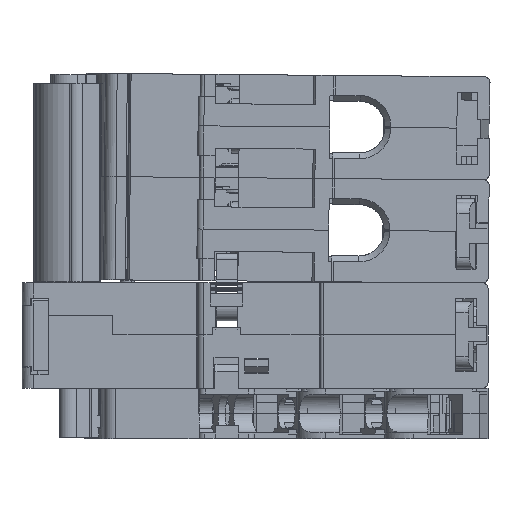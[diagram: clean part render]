
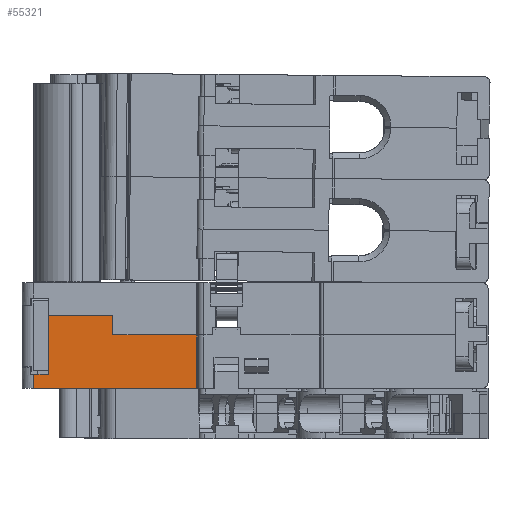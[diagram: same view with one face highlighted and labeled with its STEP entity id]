
A CAD part, left-side view. The second image highlights one B-rep face of the part: STEP entity #55321.
In plain terms, the highlighted planar face has unit normal (-1, 0, 0).
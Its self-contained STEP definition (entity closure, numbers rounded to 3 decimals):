
#1710 = FACE_OUTER_BOUND ( 'NONE', #66108, .T. ) ;
#1711 = PLANE ( 'NONE',  #69541 ) ;
#1712 = CARTESIAN_POINT ( 'NONE',  ( -53.182, 26.323, -25.744 ) ) ;
#1713 = DIRECTION ( 'NONE',  ( -1., 0., 0. ) ) ;
#1714 = DIRECTION ( 'NONE',  ( 0., -1., 0. ) ) ;
#6814 = ORIENTED_EDGE ( 'NONE', *, *, #96672, .T. ) ;
#6817 = ORIENTED_EDGE ( 'NONE', *, *, #96669, .T. ) ;
#6820 = ORIENTED_EDGE ( 'NONE', *, *, #96675, .F. ) ;
#6823 = ORIENTED_EDGE ( 'NONE', *, *, #96677, .F. ) ;
#6825 = ORIENTED_EDGE ( 'NONE', *, *, #96679, .T. ) ;
#6828 = ORIENTED_EDGE ( 'NONE', *, *, #96645, .F. ) ;
#6831 = ORIENTED_EDGE ( 'NONE', *, *, #96501, .F. ) ;
#6834 = ORIENTED_EDGE ( 'NONE', *, *, #96681, .T. ) ;
#20094 = CARTESIAN_POINT ( 'NONE',  ( -53.182, 38.323, -23.544 ) ) ;
#20095 = CARTESIAN_POINT ( 'NONE',  ( -53.182, 35.823, -23.544 ) ) ;
#20213 = CARTESIAN_POINT ( 'NONE',  ( -53.182, 24.823, -13.544 ) ) ;
#20220 = CARTESIAN_POINT ( 'NONE',  ( -53.182, 10.523, -25.944 ) ) ;
#20221 = CARTESIAN_POINT ( 'NONE',  ( -53.182, 24.823, -16.844 ) ) ;
#20227 = CARTESIAN_POINT ( 'NONE',  ( -53.182, 10.523, -16.844 ) ) ;
#20231 = CARTESIAN_POINT ( 'NONE',  ( -53.182, 35.823, -13.544 ) ) ;
#20232 = CARTESIAN_POINT ( 'NONE',  ( -53.182, 38.323, -25.944 ) ) ;
#55321 = ADVANCED_FACE ( 'NONE', ( #1710 ), #1711, .T. ) ;
#66108 = EDGE_LOOP ( 'NONE', ( #6814, #6817, #6820, #6823, #6825, #6828, #6831, #6834 ) ) ;
#67353 = VERTEX_POINT ( 'NONE', #20094 ) ;
#67354 = VERTEX_POINT ( 'NONE', #20095 ) ;
#67472 = VERTEX_POINT ( 'NONE', #20213 ) ;
#67479 = VERTEX_POINT ( 'NONE', #20220 ) ;
#67480 = VERTEX_POINT ( 'NONE', #20221 ) ;
#67486 = VERTEX_POINT ( 'NONE', #20227 ) ;
#67490 = VERTEX_POINT ( 'NONE', #20231 ) ;
#67491 = VERTEX_POINT ( 'NONE', #20232 ) ;
#69541 = AXIS2_PLACEMENT_3D ( 'NONE', #1712, #1713, #1714 ) ;
#79932 = VECTOR ( 'NONE', #80880, 1000. ) ;
#80009 = VECTOR ( 'NONE', #81085, 1000. ) ;
#80015 = VECTOR ( 'NONE', #81118, 1000. ) ;
#80026 = VECTOR ( 'NONE', #81123, 1000. ) ;
#80028 = VECTOR ( 'NONE', #81126, 1000. ) ;
#80029 = VECTOR ( 'NONE', #81129, 1000. ) ;
#80030 = VECTOR ( 'NONE', #81132, 1000. ) ;
#80031 = VECTOR ( 'NONE', #81135, 1000. ) ;
#80870 = CARTESIAN_POINT ( 'NONE',  ( -53.182, 38.823, -23.544 ) ) ;
#80874 = LINE ( 'NONE', #80870, #79932 ) ;
#80880 = DIRECTION ( 'NONE',  ( 0., -1., 0. ) ) ;
#81083 = LINE ( 'NONE', #81084, #80009 ) ;
#81084 = CARTESIAN_POINT ( 'NONE',  ( -53.182, 35.823, -23.744 ) ) ;
#81085 = DIRECTION ( 'NONE',  ( 0., 0., 1. ) ) ;
#81101 = CARTESIAN_POINT ( 'NONE',  ( -53.182, 10.523, -16.844 ) ) ;
#81112 = CARTESIAN_POINT ( 'NONE',  ( -53.182, 26.323, -25.944 ) ) ;
#81113 = LINE ( 'NONE', #81101, #80015 ) ;
#81117 = LINE ( 'NONE', #81112, #80026 ) ;
#81118 = DIRECTION ( 'NONE',  ( 0., 0., 1. ) ) ;
#81123 = DIRECTION ( 'NONE',  ( 0., -1., 0. ) ) ;
#81124 = LINE ( 'NONE', #81125, #80028 ) ;
#81125 = CARTESIAN_POINT ( 'NONE',  ( -53.182, 26.323, -16.844 ) ) ;
#81126 = DIRECTION ( 'NONE',  ( 0., -1., 0. ) ) ;
#81127 = LINE ( 'NONE', #81128, #80029 ) ;
#81128 = CARTESIAN_POINT ( 'NONE',  ( -53.182, 24.823, -7.944 ) ) ;
#81129 = DIRECTION ( 'NONE',  ( 0., 0., -1. ) ) ;
#81130 = LINE ( 'NONE', #81131, #80030 ) ;
#81131 = CARTESIAN_POINT ( 'NONE',  ( -53.182, 35.823, -13.544 ) ) ;
#81132 = DIRECTION ( 'NONE',  ( 0., 1., 0. ) ) ;
#81133 = LINE ( 'NONE', #81134, #80031 ) ;
#81134 = CARTESIAN_POINT ( 'NONE',  ( -53.182, 38.323, -25.744 ) ) ;
#81135 = DIRECTION ( 'NONE',  ( 0., 0., -1. ) ) ;
#96501 = EDGE_CURVE ( 'NONE', #67353, #67354, #80874, .T. ) ;
#96645 = EDGE_CURVE ( 'NONE', #67354, #67490, #81083, .T. ) ;
#96669 = EDGE_CURVE ( 'NONE', #67479, #67486, #81113, .T. ) ;
#96672 = EDGE_CURVE ( 'NONE', #67491, #67479, #81117, .T. ) ;
#96675 = EDGE_CURVE ( 'NONE', #67480, #67486, #81124, .T. ) ;
#96677 = EDGE_CURVE ( 'NONE', #67472, #67480, #81127, .T. ) ;
#96679 = EDGE_CURVE ( 'NONE', #67472, #67490, #81130, .T. ) ;
#96681 = EDGE_CURVE ( 'NONE', #67353, #67491, #81133, .T. ) ;
